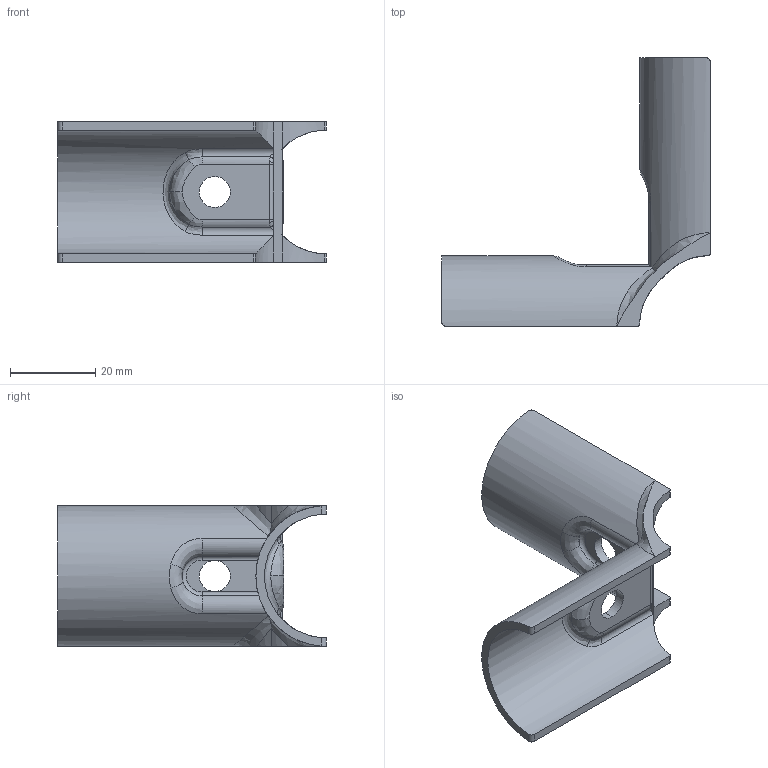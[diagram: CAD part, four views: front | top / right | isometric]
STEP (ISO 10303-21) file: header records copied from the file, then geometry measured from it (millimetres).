
FILE_DESCRIPTION (( 'STEP AP203' ), '1' );
FILE_NAME ('015.100.002.STEP', '2016-10-24T07:26:18', ( '' ), ( '' ), 'SwSTEP 2.0', 'SolidWorks 2016', '' );
FILE_SCHEMA (( 'CONFIG_CONTROL_DESIGN' ));
Length unit declared in the file: millimetre
Products named in the file (1): 015.100.002
Bounding box: 63 x 63 x 33 mm (x, y, z)
Volume: 10659 mm3; surface area: 10576.3 mm2
Topology: 1 solids, 1 shells, 104 faces, 268 edges, 162 vertices
Faces by surface type: cylinder 44, bspline 32, plane 18, torus 10
Entity records: 5501 total; most frequent: CARTESIAN_POINT 3179, ORIENTED_EDGE 536, DIRECTION 394, EDGE_CURVE 268, VERTEX_POINT 162, AXIS2_PLACEMENT_3D 159, EDGE_LOOP 108, ADVANCED_FACE 104
